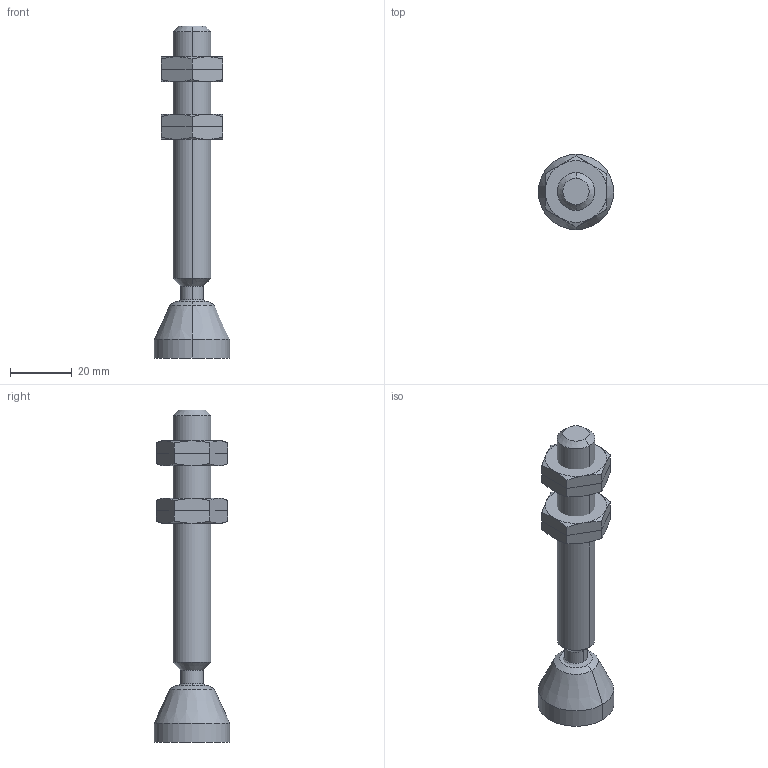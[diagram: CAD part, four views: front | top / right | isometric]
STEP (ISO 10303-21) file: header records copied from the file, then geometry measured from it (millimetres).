
FILE_DESCRIPTION((''),' ');
FILE_NAME('GH_SF-12100_M12x100.stp',' ',('Rui Rosa'),('Fixsolda, Lda'),' ','ACIS 14.0',' ');
FILE_SCHEMA(('automotive_design'));
Length unit declared in the file: inch
Products named in the file (4): Bauteil_12317; Bauteil_12318; Bauteil_12319; Bauteil_12320
Bounding box: 24.42 x 24.42 x 107.56 mm (x, y, z)
Volume: 21144.7 mm3; surface area: 8228.2 mm2
Topology: 4 solids, 4 shells, 79 faces, 322 edges, 249 vertices
Faces by surface type: cone 32, plane 31, cylinder 14, sphere 2
Entity records: 7230 total; most frequent: CARTESIAN_POINT 1060, STYLED_ITEM 652, PRESENTATION_STYLE_ASSIGNMENT 652, COLOUR_RGB 652, ORIENTED_EDGE 640, DIRECTION 476, EDGE_CURVE 320, CURVE_STYLE 320
